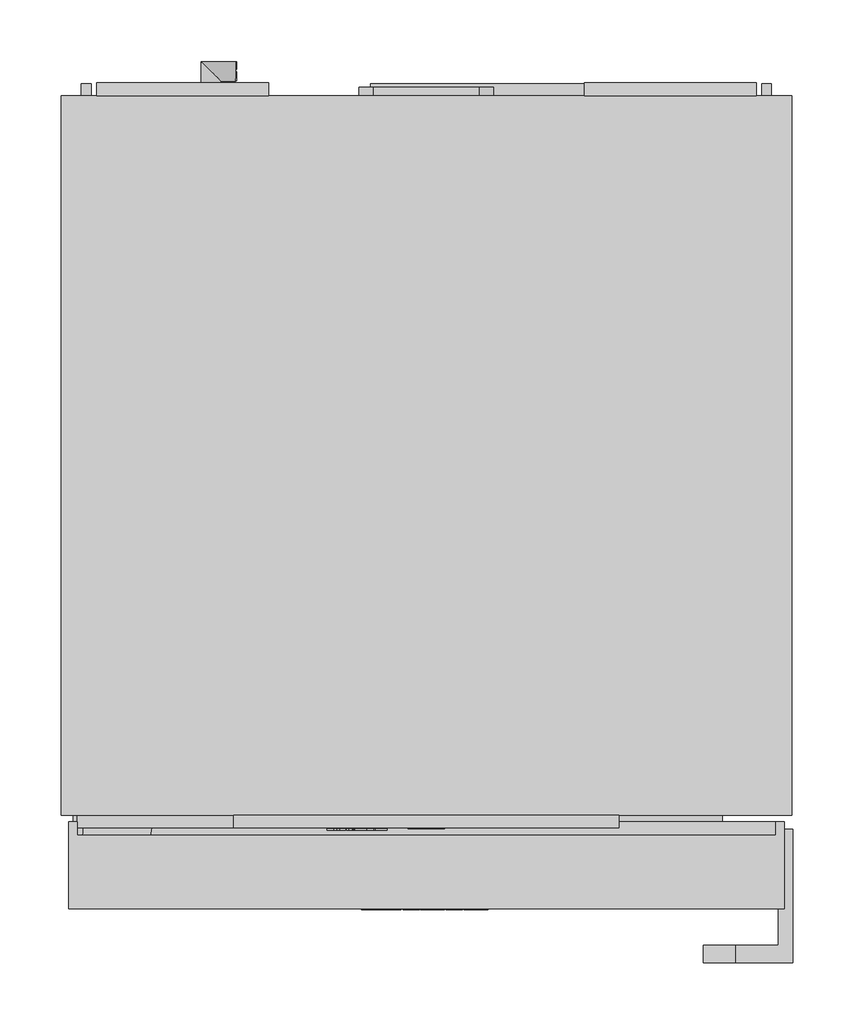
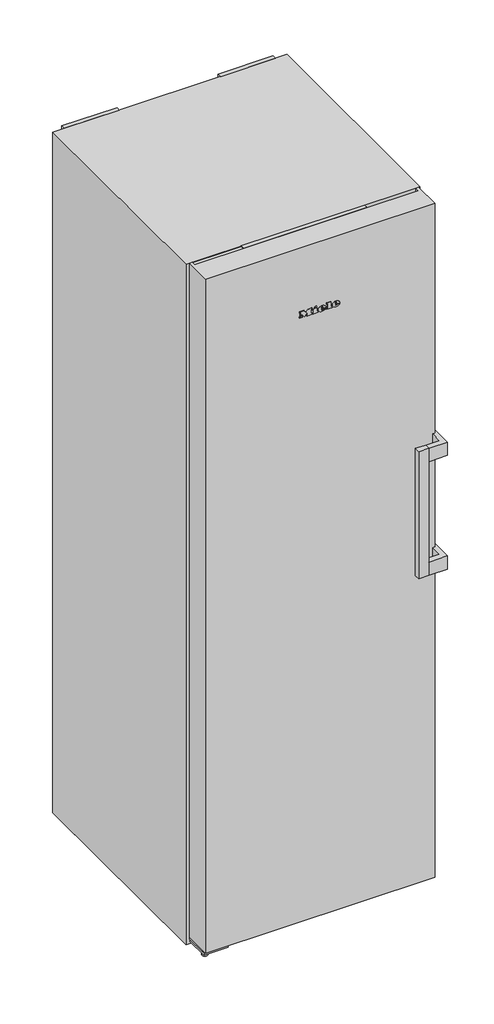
# Not in any storey: 1 proxy.
"""IFC4 building model written with IfcOpenShell, lengths in millimetres."""

from ifc_helpers import new_model, si_unit, origin, place, context, project, spatial, transform, mapped, element, save
from components import specialty_equipment_2f4e0856

model = new_model("IFC4")

# Units and contexts
model_context = context("Model", 3, world=origin())
ifc_project = project(units=[si_unit("LENGTHUNIT", "METRE", prefix="MILLI")], contexts=[model_context])

# Site, building
site = spatial("IfcSite", under=ifc_project)
building = spatial("IfcBuilding", under=site)

# Proxy
placement = place(None, origin())
specialty_equipment_shape = specialty_equipment_2f4e0856(model_context)
element("IfcBuildingElementProxy", 1, Name="12430480_EU2_FNS4382D_WS-N : 37438244_EU2_12430480_FNS4382D_WS-N", ObjectType="12430480_EU2_FNS4382D_WS-N : 37438244_EU2_12430480_FNS4382D_WS-N", at=placement, inside=building, context=model_context, shape_type="MappedRepresentation", body=[
    mapped(specialty_equipment_shape, transform((0.0, 0.0, 0.0), x_axis=(1.0, 0.0, 0.0), y_axis=(0.0, 1.0, 0.0), z_axis=(0.0, 0.0, 1.0))),
])

save(model, "model.ifc")
